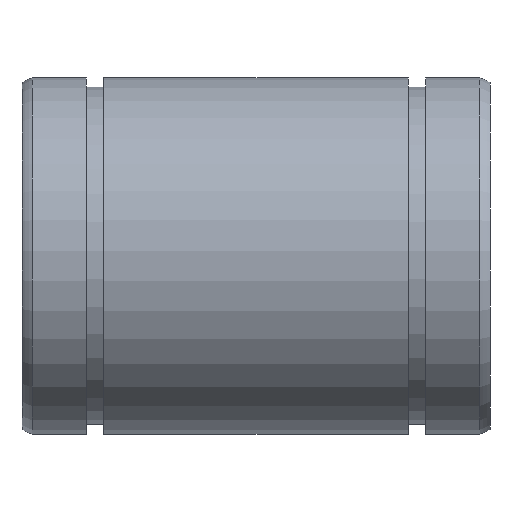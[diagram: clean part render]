
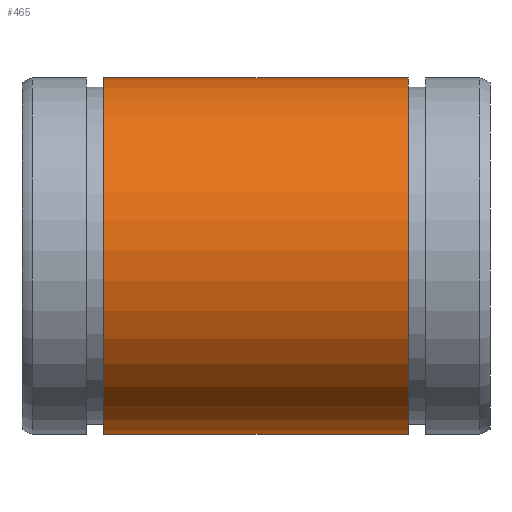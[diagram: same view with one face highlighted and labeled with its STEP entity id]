
A CAD part, front view. The second image highlights one B-rep face of the part: STEP entity #465.
In plain terms, the highlighted cylindrical face has radius 16 mm (diameter 32 mm), a partial arc.
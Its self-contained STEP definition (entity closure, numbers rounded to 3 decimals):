
#87=CARTESIAN_POINT('',(7.35,1.0,-15.969));
#88=VERTEX_POINT('',#87);
#95=CARTESIAN_POINT('',(34.65,1.0,-15.969));
#96=VERTEX_POINT('',#95);
#97=CARTESIAN_POINT('',(34.65,1.0,-15.969));
#98=DIRECTION('',(-1.0,0.0,0.0));
#99=VECTOR('',#98,27.3);
#100=LINE('',#97,#99);
#101=EDGE_CURVE('',#96,#88,#100,.T.);
#321=CARTESIAN_POINT('',(34.65,-1.0,-15.969));
#322=VERTEX_POINT('',#321);
#329=CARTESIAN_POINT('',(7.35,-1.0,-15.969));
#330=VERTEX_POINT('',#329);
#331=CARTESIAN_POINT('',(7.35,-1.0,-15.969));
#332=DIRECTION('',(1.0,0.0,0.0));
#333=VECTOR('',#332,27.3);
#334=LINE('',#331,#333);
#335=EDGE_CURVE('',#330,#322,#334,.T.);
#436=CARTESIAN_POINT('',(7.35,0.0,0.));
#437=DIRECTION('',(-1.0,0.0,0.0));
#438=DIRECTION('',(0.0,0.0,1.0));
#439=AXIS2_PLACEMENT_3D('',#436,#437,#438);
#440=CIRCLE('',#439,16.0);
#441=EDGE_CURVE('',#330,#88,#440,.T.);
#448=CARTESIAN_POINT('',(21.,0.0,0.));
#449=DIRECTION('',(-1.0,0.0,0.0));
#450=DIRECTION('',(0.0,0.0,1.0));
#451=AXIS2_PLACEMENT_3D('',#448,#449,#450);
#452=CYLINDRICAL_SURFACE('',#451,16.);
#453=ORIENTED_EDGE('',*,*,#335,.T.);
#454=CARTESIAN_POINT('',(34.65,0.0,0.));
#455=DIRECTION('',(-1.0,0.0,0.0));
#456=DIRECTION('',(0.0,0.0,1.0));
#457=AXIS2_PLACEMENT_3D('',#454,#455,#456);
#458=CIRCLE('',#457,16.);
#459=EDGE_CURVE('',#322,#96,#458,.T.);
#460=ORIENTED_EDGE('',*,*,#459,.T.);
#461=ORIENTED_EDGE('',*,*,#101,.T.);
#462=ORIENTED_EDGE('',*,*,#441,.F.);
#463=EDGE_LOOP('',(#453,#460,#461,#462));
#464=FACE_OUTER_BOUND('',#463,.T.);
#465=ADVANCED_FACE('',(#464),#452,.T.);
